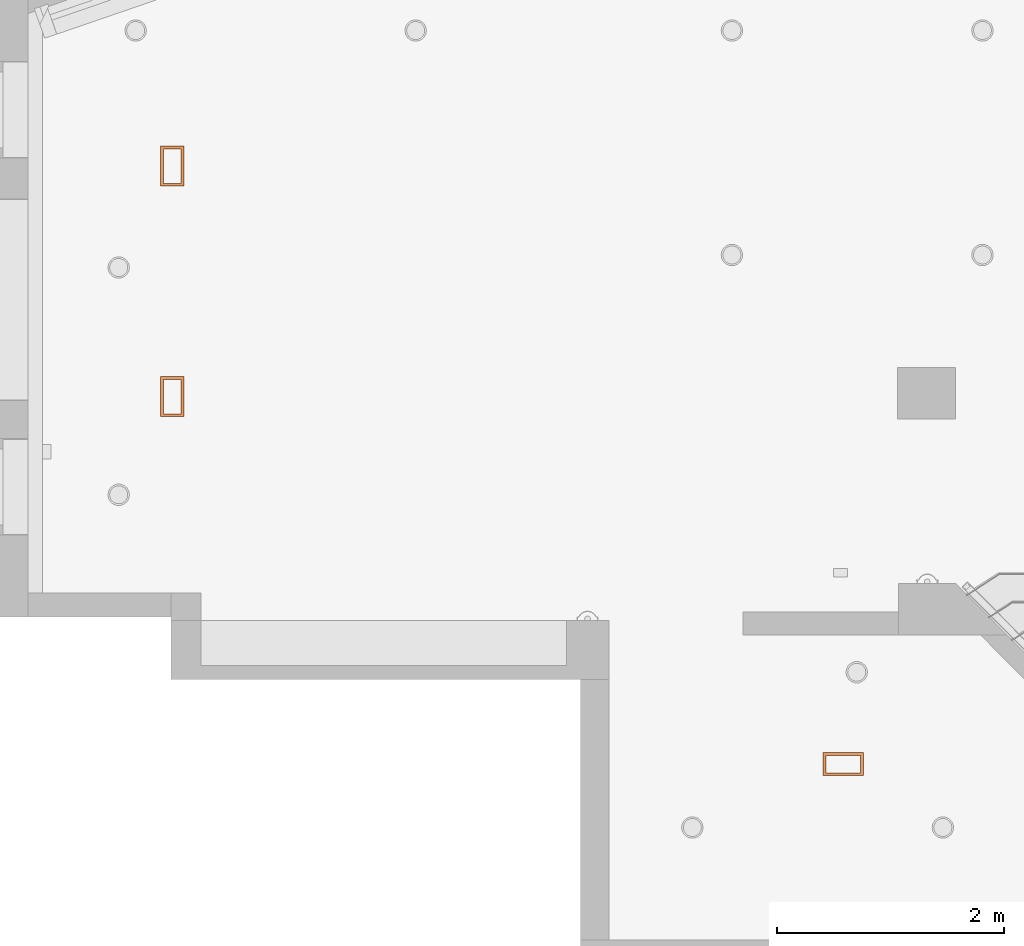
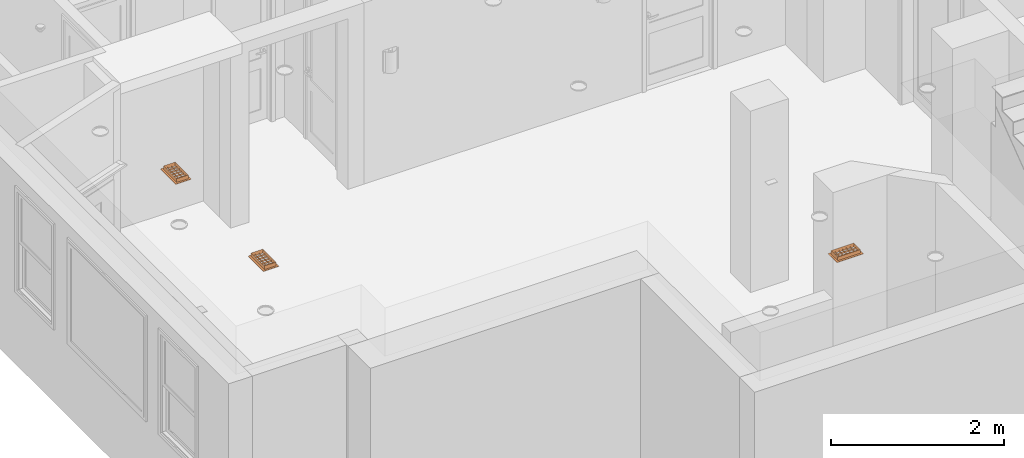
# One storey, part 19 of 24: 3 proxies.
"""IFC2X3 building model written with IfcOpenShell, lengths in inches."""

from ifc_helpers import new_model, entity, si_unit, converted_unit, derived_unit, money_unit, direction, frame, origin_with_axes, place, context, subcontext, project, spatial, open_shell, faceted_brep, surface_model, source, transform, mapped, type_object, element, save


model = new_model("IFC2X3")

# Units and contexts
model_context = context("Model", 3, precision=0.000393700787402, world=origin_with_axes(), true_north=direction((0.0, 1.0)))
body_context = subcontext(model_context, "Body", "Model", "MODEL_VIEW")
ifc_project = project(units=[converted_unit("LENGTHUNIT", "INCH", entity("IfcPositiveLengthMeasure", 0.0254), si_unit("LENGTHUNIT", "METRE"), dimensions=[1, 0, 0, 0, 0, 0, 0]), converted_unit("AREAUNIT", "SQUARE_FOOT", entity("IfcPositiveLengthMeasure", 0.09290304), si_unit("AREAUNIT", "SQUARE_METRE"), dimensions=[2, 0, 0, 0, 0, 0, 0]), si_unit("PLANEANGLEUNIT", "RADIAN"), si_unit("SOLIDANGLEUNIT", "STERADIAN"), money_unit("USD"), converted_unit("TIMEUNIT", "Year", entity("IfcTimeMeasure", 31556926.0), si_unit("TIMEUNIT", "SECOND"), dimensions=[0, 0, 1, 0, 0, 0, 0]), si_unit("MASSUNIT", "GRAM", prefix="KILO"), si_unit("THERMODYNAMICTEMPERATUREUNIT", "DEGREE_CELSIUS"), si_unit("LUMINOUSINTENSITYUNIT", "LUMEN"), si_unit("ENERGYUNIT", "JOULE", prefix="MEGA"), derived_unit("THERMALCONDUCTANCEUNIT", [(si_unit("POWERUNIT", "WATT"), 1), (si_unit("LENGTHUNIT", "METRE"), -1), (si_unit("THERMODYNAMICTEMPERATUREUNIT", "KELVIN"), -1)]), derived_unit("SPECIFICHEATCAPACITYUNIT", [(si_unit("ENERGYUNIT", "JOULE"), 1), (si_unit("MASSUNIT", "GRAM", prefix="KILO"), -1), (si_unit("THERMODYNAMICTEMPERATUREUNIT", "KELVIN"), -1)]), derived_unit("MASSDENSITYUNIT", [(si_unit("MASSUNIT", "GRAM", prefix="KILO"), 1), (si_unit("VOLUMEUNIT", "CUBIC_METRE"), -1)])], contexts=[model_context])

# Site, building, storey
site_placement = place(None, origin_with_axes())
site = spatial("IfcSite", under=ifc_project, at=site_placement, Name="Site", CompositionType="ELEMENT")
building_placement = place(site_placement, origin_with_axes())
building = spatial("IfcBuilding", under=site, at=building_placement, Name="Building", CompositionType="ELEMENT")
storey_placement = place(building_placement, origin_with_axes())
storey = spatial("IfcBuildingStorey", under=building, at=storey_placement, Name="First Floor", CompositionType="ELEMENT", Elevation=0.0)

# Proxies
building_element_proxy_type = type_object("IfcBuildingElementProxyType", Name="Ceiling Grille 25", PredefinedType="NOTDEFINED")
shared_shape = source(origin_with_axes(), body_context, "Body", "SurfaceModel", [
    faceted_brep([(6.98818897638, 4.03543307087, -0.196850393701), (-6.98818897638, 4.03543307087, -0.196850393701), (-6.98818897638, 4.03543307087, 0.0), (6.98818897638, 4.03543307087, 0.0), (6.98818897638, -4.03543307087, -0.196850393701), (-6.98818897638, -4.03543307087, -0.196850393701), (6.00393700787, 3.05118110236, -0.196850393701), (-6.00393700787, 3.05118110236, -0.196850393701), (-6.00393700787, -3.05118110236, -0.196850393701), (6.00393700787, -3.05118110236, -0.196850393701), (-6.98818897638, -4.03543307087, 0.0), (6.98818897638, -4.03543307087, 0.0), (6.00393700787, 3.05118110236, 0.0), (6.00393700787, -3.05118110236, 0.0), (-6.00393700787, -3.05118110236, 0.0), (-6.00393700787, 3.05118110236, 0.0)], [[[0, 1, 2, 3]], [[0, 4, 5, 1], [6, 7, 8, 9]], [[1, 5, 10, 2]], [[3, 2, 10, 11], [12, 13, 14, 15]], [[4, 0, 3, 11]], [[5, 4, 11, 10]], [[7, 6, 12, 15]], [[8, 7, 15, 14]], [[9, 8, 14, 13]], [[6, 9, 13, 12]]]),
    surface_model("IfcShellBasedSurfaceModel", [(-5.96456692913, 2.95275590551, -0.196850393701), (5.96456692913, 2.95275590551, -0.196850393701), (5.96456692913, 2.95275590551, 0.787401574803), (-5.96456692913, 2.95275590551, 0.787401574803)], [open_shell([[[0, 1, 2, 3]]])]),
    surface_model("IfcShellBasedSurfaceModel", [(-5.96456692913, 0.984251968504, -0.196850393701), (5.96456692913, 0.984251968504, -0.196850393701), (5.96456692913, 0.984251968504, 0.787401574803), (-5.96456692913, 0.984251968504, 0.787401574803)], [open_shell([[[0, 1, 2, 3]]])]),
    surface_model("IfcShellBasedSurfaceModel", [(-5.96456692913, -0.984251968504, -0.196850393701), (5.96456692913, -0.984251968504, -0.196850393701), (5.96456692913, -0.984251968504, 0.787401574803), (-5.96456692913, -0.984251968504, 0.787401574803)], [open_shell([[[0, 1, 2, 3]]])]),
    surface_model("IfcShellBasedSurfaceModel", [(-5.96456692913, -2.95275590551, -0.196850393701), (5.96456692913, -2.95275590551, -0.196850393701), (5.96456692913, -2.95275590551, 0.787401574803), (-5.96456692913, -2.95275590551, 0.787401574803)], [open_shell([[[0, 1, 2, 3]]])]),
    surface_model("IfcShellBasedSurfaceModel", [(5.90551181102, -3.01181102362, -0.196850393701), (5.90551181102, 3.01181102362, -0.196850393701), (5.90551181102, 3.01181102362, 0.787401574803), (5.90551181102, -3.01181102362, 0.787401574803)], [open_shell([[[0, 1, 2, 3]]])]),
    surface_model("IfcShellBasedSurfaceModel", [(3.93700787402, -3.01181102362, -0.196850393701), (3.93700787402, 3.01181102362, -0.196850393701), (3.93700787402, 3.01181102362, 0.787401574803), (3.93700787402, -3.01181102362, 0.787401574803)], [open_shell([[[0, 1, 2, 3]]])]),
    surface_model("IfcShellBasedSurfaceModel", [(1.96850393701, -3.01181102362, -0.196850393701), (1.96850393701, 3.01181102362, -0.196850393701), (1.96850393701, 3.01181102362, 0.787401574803), (1.96850393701, -3.01181102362, 0.787401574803)], [open_shell([[[0, 1, 2, 3]]])]),
    surface_model("IfcShellBasedSurfaceModel", [(0.0, -3.01181102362, -0.196850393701), (0.0, 3.01181102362, -0.196850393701), (0.0, 3.01181102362, 0.787401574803), (0.0, -3.01181102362, 0.787401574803)], [open_shell([[[0, 1, 2, 3]]])]),
    surface_model("IfcShellBasedSurfaceModel", [(-1.96850393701, -3.01181102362, -0.196850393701), (-1.96850393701, 3.01181102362, -0.196850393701), (-1.96850393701, 3.01181102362, 0.787401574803), (-1.96850393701, -3.01181102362, 0.787401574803)], [open_shell([[[0, 1, 2, 3]]])]),
    surface_model("IfcShellBasedSurfaceModel", [(-3.93700787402, -3.01181102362, -0.196850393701), (-3.93700787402, 3.01181102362, -0.196850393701), (-3.93700787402, 3.01181102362, 0.787401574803), (-3.93700787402, -3.01181102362, 0.787401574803)], [open_shell([[[0, 1, 2, 3]]])]),
    surface_model("IfcShellBasedSurfaceModel", [(-5.90551181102, -3.01181102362, -0.196850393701), (-5.90551181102, 3.01181102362, -0.196850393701), (-5.90551181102, 3.01181102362, 0.787401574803), (-5.90551181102, -3.01181102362, 0.787401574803)], [open_shell([[[0, 1, 2, 3]]])]),
    surface_model("IfcShellBasedSurfaceModel", [(6.00393700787, -3.05118110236, 0.0), (6.00393700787, 3.05118110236, 0.0), (6.00393700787, 3.05118110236, 1.96850393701), (6.00393700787, -3.05118110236, 1.96850393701), (-6.00393700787, 3.05118110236, 0.0), (-6.00393700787, 3.05118110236, 1.96850393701), (-6.00393700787, -3.05118110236, 0.0), (-6.00393700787, -3.05118110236, 1.96850393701)], [open_shell([[[0, 1, 2, 3]], [[1, 4, 5, 2]], [[6, 0, 3, 7]], [[4, 6, 7, 5]]])]),
])
for number, where, z_axis, x_axis, name in (
    (1, (573.589044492, 87.6812509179, 101.0), (0.0, 0.0, 1.0), (-1.0, 0.0, 0.0), "FU - 013"),
    (2, (340.510752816, 215.336306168, 101.0), (0.0, 0.0, 1.0), (0.0, -1.0, 0.0), "FU - 013"),
    (3, (340.510752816, 295.383550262, 101.0), (0.0, 0.0, 1.0), (0.0, -1.0, 0.0), "FU - 013"),
):
    element("IfcBuildingElementProxy", number, at=place(storey_placement, frame(where, z_axis=z_axis, x_axis=x_axis)), inside=storey, type_object=building_element_proxy_type, Name=name, context=body_context, shape_type="MappedRepresentation", body=[
        mapped(shared_shape, transform((0.0, 0.0, 0.0))),
    ])

save(model, "model.ifc")
